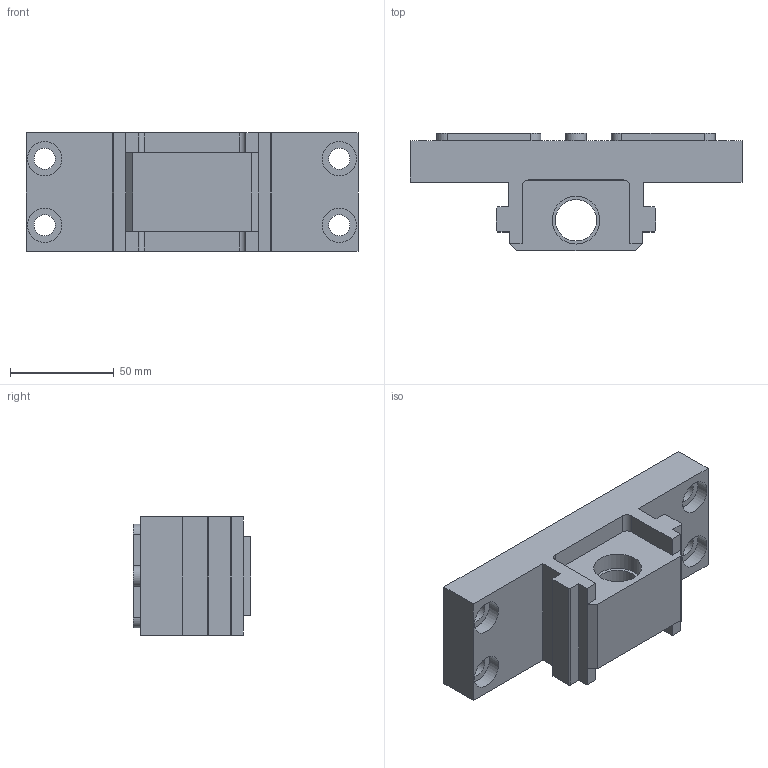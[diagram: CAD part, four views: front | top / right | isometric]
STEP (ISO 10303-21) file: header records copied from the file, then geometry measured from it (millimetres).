
FILE_DESCRIPTION (( 'STEP AP214' ), '1' );
FILE_NAME ('49125.STEP', '2020-04-06T08:41:03', ( '' ), ( '' ), 'SwSTEP 2.0', 'SolidWorks 2019', '' );
FILE_SCHEMA (( 'AUTOMOTIVE_DESIGN' ));
Length unit declared in the file: millimetre
Products named in the file (1): 49125
Bounding box: 160 x 56.5 x 57 mm (x, y, z)
Volume: 258936.1 mm3; surface area: 42773.8 mm2
Topology: 1 solids, 1 shells, 72 faces, 180 edges, 119 vertices
Faces by surface type: plane 51, cylinder 21
Full cylindrical faces by diameter (mm): 10.2 x4, 16.5 x4, 20 x1, 23 x2
Entity records: 2924 total; most frequent: CARTESIAN_POINT 359, DIRECTION 356, ORIENTED_EDGE 336, EDGE_CURVE 168, LINE 126, VECTOR 126, VERTEX_POINT 118, AXIS2_PLACEMENT_3D 115
